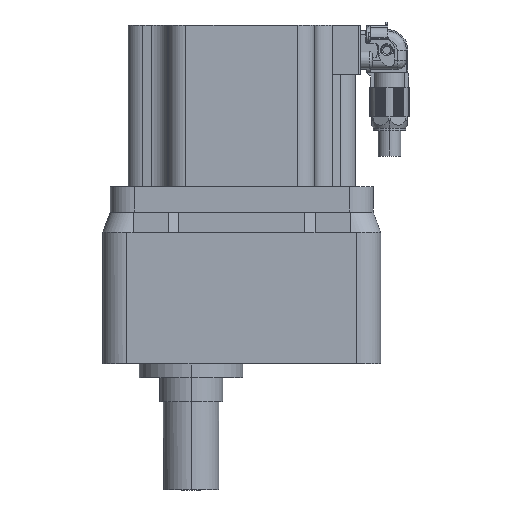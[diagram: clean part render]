
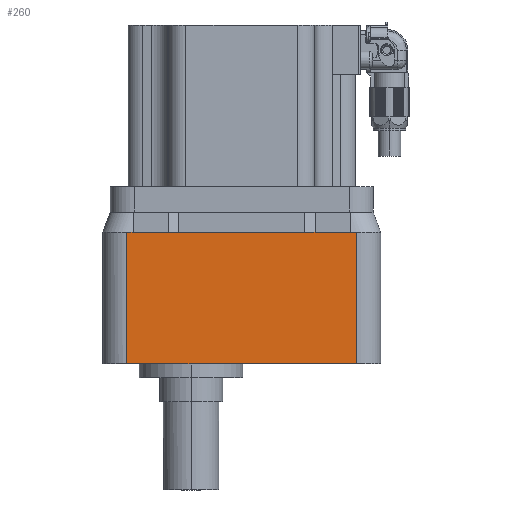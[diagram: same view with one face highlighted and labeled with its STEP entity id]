
A CAD part, left-side view. The second image highlights one B-rep face of the part: STEP entity #260.
In plain terms, the highlighted planar face has unit normal (-1, 0, 0).
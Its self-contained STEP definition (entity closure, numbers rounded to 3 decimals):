
#260 = ADVANCED_FACE ( 'NONE', ( #11012 ), #19990, .F. ) ;
#279 = EDGE_CURVE ( 'NONE', #4516, #2460, #3160, .T. ) ;
#440 = VERTEX_POINT ( 'NONE', #19326 ) ;
#648 = CARTESIAN_POINT ( 'NONE',  ( -55., -45.5, -215.563 ) ) ;
#739 = CARTESIAN_POINT ( 'NONE',  ( -55., -291539.5, -8. ) ) ;
#749 = LINE ( 'NONE', #739, #13338 ) ;
#795 = CARTESIAN_POINT ( 'NONE',  ( -55., -45.5, -8. ) ) ;
#1062 = VECTOR ( 'NONE', #3216, 1000. ) ;
#1853 = VECTOR ( 'NONE', #14648, 1000. ) ;
#2460 = VERTEX_POINT ( 'NONE', #3105 ) ;
#2826 = DIRECTION ( 'NONE',  ( 0., -1., 0. ) ) ;
#2973 = LINE ( 'NONE', #3871, #1853 ) ;
#3105 = CARTESIAN_POINT ( 'NONE',  ( -55., 45.5, -60. ) ) ;
#3122 = VECTOR ( 'NONE', #5847, 1000. ) ;
#3160 = LINE ( 'NONE', #12987, #6261 ) ;
#3216 = DIRECTION ( 'NONE',  ( 0., -1., 0. ) ) ;
#3294 = LINE ( 'NONE', #22142, #15299 ) ;
#3304 = EDGE_CURVE ( 'NONE', #10298, #6740, #8069, .T. ) ;
#3337 = DIRECTION ( 'NONE',  ( 0., -1., 0. ) ) ;
#3404 = ORIENTED_EDGE ( 'NONE', *, *, #20117, .T. ) ;
#3791 = ORIENTED_EDGE ( 'NONE', *, *, #9439, .F. ) ;
#3837 = DIRECTION ( 'NONE',  ( 0., 1., 0. ) ) ;
#3871 = CARTESIAN_POINT ( 'NONE',  ( -55., 55., -8. ) ) ;
#4042 = VERTEX_POINT ( 'NONE', #15268 ) ;
#4310 = ORIENTED_EDGE ( 'NONE', *, *, #279, .F. ) ;
#4516 = VERTEX_POINT ( 'NONE', #17027 ) ;
#4552 = CARTESIAN_POINT ( 'NONE',  ( -55., -291539.5, -8. ) ) ;
#5027 = DIRECTION ( 'NONE',  ( 0., -1., 0. ) ) ;
#5128 = LINE ( 'NONE', #4552, #6250 ) ;
#5435 = ORIENTED_EDGE ( 'NONE', *, *, #17529, .F. ) ;
#5847 = DIRECTION ( 'NONE',  ( 0., 0., -1. ) ) ;
#6178 = CARTESIAN_POINT ( 'NONE',  ( -55., -43., -8. ) ) ;
#6250 = VECTOR ( 'NONE', #2826, 1000. ) ;
#6255 = LINE ( 'NONE', #19424, #16551 ) ;
#6261 = VECTOR ( 'NONE', #3837, 1000. ) ;
#6740 = VERTEX_POINT ( 'NONE', #9510 ) ;
#8069 = LINE ( 'NONE', #8795, #1062 ) ;
#8795 = CARTESIAN_POINT ( 'NONE',  ( -55., -291539.5, -8. ) ) ;
#9172 = DIRECTION ( 'NONE',  ( 0., 0., -1. ) ) ;
#9439 = EDGE_CURVE ( 'NONE', #4042, #440, #18277, .T. ) ;
#9510 = CARTESIAN_POINT ( 'NONE',  ( -55., 43., -8. ) ) ;
#10298 = VERTEX_POINT ( 'NONE', #20331 ) ;
#10763 = EDGE_CURVE ( 'NONE', #15742, #4516, #13197, .T. ) ;
#11012 = FACE_OUTER_BOUND ( 'NONE', #12228, .T. ) ;
#11122 = DIRECTION ( 'NONE',  ( 1., 0., 0. ) ) ;
#11779 = VECTOR ( 'NONE', #14512, 1000. ) ;
#12228 = EDGE_LOOP ( 'NONE', ( #15095, #22900, #3404, #21350, #21803, #3791, #12462, #17646, #5435, #4310 ) ) ;
#12462 = ORIENTED_EDGE ( 'NONE', *, *, #19448, .F. ) ;
#12722 = VECTOR ( 'NONE', #5027, 1000. ) ;
#12987 = CARTESIAN_POINT ( 'NONE',  ( -55., -291539.5, -60. ) ) ;
#13197 = LINE ( 'NONE', #648, #3122 ) ;
#13338 = VECTOR ( 'NONE', #16825, 1000. ) ;
#13711 = EDGE_CURVE ( 'NONE', #440, #19791, #749, .T. ) ;
#14013 = CARTESIAN_POINT ( 'NONE',  ( -55., -291539.5, -8. ) ) ;
#14438 = CARTESIAN_POINT ( 'NONE',  ( -55., 45.5, -215.563 ) ) ;
#14512 = DIRECTION ( 'NONE',  ( 0., 0., 1. ) ) ;
#14648 = DIRECTION ( 'NONE',  ( 0., 1., 0. ) ) ;
#15095 = ORIENTED_EDGE ( 'NONE', *, *, #10763, .F. ) ;
#15268 = CARTESIAN_POINT ( 'NONE',  ( -55., 29., -8. ) ) ;
#15299 = VECTOR ( 'NONE', #22289, 1000. ) ;
#15742 = VERTEX_POINT ( 'NONE', #795 ) ;
#15819 = EDGE_CURVE ( 'NONE', #19791, #16839, #5128, .T. ) ;
#16493 = EDGE_CURVE ( 'NONE', #17822, #15742, #6255, .T. ) ;
#16509 = LINE ( 'NONE', #14438, #11779 ) ;
#16551 = VECTOR ( 'NONE', #3337, 1000. ) ;
#16825 = DIRECTION ( 'NONE',  ( 0., -1., 0. ) ) ;
#16839 = VERTEX_POINT ( 'NONE', #22768 ) ;
#17027 = CARTESIAN_POINT ( 'NONE',  ( -55., -45.5, -60. ) ) ;
#17529 = EDGE_CURVE ( 'NONE', #2460, #10298, #16509, .T. ) ;
#17646 = ORIENTED_EDGE ( 'NONE', *, *, #3304, .F. ) ;
#17685 = AXIS2_PLACEMENT_3D ( 'NONE', #19841, #11122, #9172 ) ;
#17822 = VERTEX_POINT ( 'NONE', #6178 ) ;
#18277 = LINE ( 'NONE', #14013, #12722 ) ;
#18877 = CARTESIAN_POINT ( 'NONE',  ( -55., -25., -8. ) ) ;
#19326 = CARTESIAN_POINT ( 'NONE',  ( -55., 25., -8. ) ) ;
#19424 = CARTESIAN_POINT ( 'NONE',  ( -55., -291539.5, -8. ) ) ;
#19448 = EDGE_CURVE ( 'NONE', #6740, #4042, #3294, .T. ) ;
#19791 = VERTEX_POINT ( 'NONE', #18877 ) ;
#19841 = CARTESIAN_POINT ( 'NONE',  ( -55., -291539.5, -215.563 ) ) ;
#19990 = PLANE ( 'NONE',  #17685 ) ;
#20117 = EDGE_CURVE ( 'NONE', #17822, #16839, #2973, .T. ) ;
#20331 = CARTESIAN_POINT ( 'NONE',  ( -55., 45.5, -8. ) ) ;
#21350 = ORIENTED_EDGE ( 'NONE', *, *, #15819, .F. ) ;
#21803 = ORIENTED_EDGE ( 'NONE', *, *, #13711, .F. ) ;
#22142 = CARTESIAN_POINT ( 'NONE',  ( -55., -291539.5, -8. ) ) ;
#22289 = DIRECTION ( 'NONE',  ( 0., -1., 0. ) ) ;
#22768 = CARTESIAN_POINT ( 'NONE',  ( -55., -29., -8. ) ) ;
#22900 = ORIENTED_EDGE ( 'NONE', *, *, #16493, .F. ) ;
